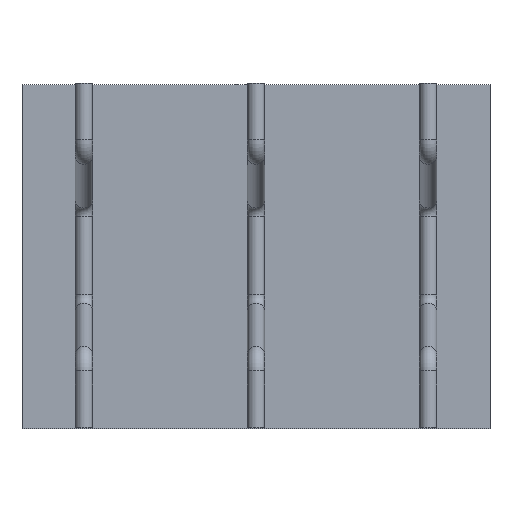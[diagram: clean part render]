
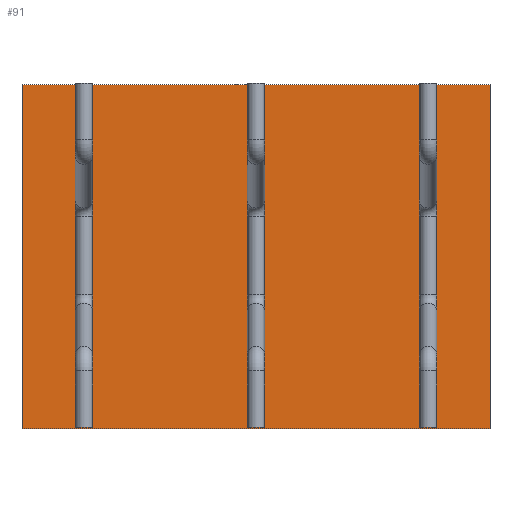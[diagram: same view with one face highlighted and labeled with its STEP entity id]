
A CAD part, top view. The second image highlights one B-rep face of the part: STEP entity #91.
In plain terms, the highlighted planar face has unit normal (0, 0, 1).
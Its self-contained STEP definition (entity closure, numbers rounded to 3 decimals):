
#52=CARTESIAN_POINT('Axis2P3D Location',(0.,0.,0.)) ;
#57=CARTESIAN_POINT('Line Origine',(0.,500.,0.)) ;
#61=CARTESIAN_POINT('Vertex',(680.,500.,0.)) ;
#63=CARTESIAN_POINT('Vertex',(-680.,500.,0.)) ;
#66=CARTESIAN_POINT('Line Origine',(-680.,0.,0.)) ;
#70=CARTESIAN_POINT('Vertex',(-680.,-500.,0.)) ;
#73=CARTESIAN_POINT('Line Origine',(0.,-500.,0.)) ;
#77=CARTESIAN_POINT('Vertex',(680.,-500.,0.)) ;
#80=CARTESIAN_POINT('Line Origine',(680.,0.,0.)) ;
#53=DIRECTION('Axis2P3D Direction',(0.,0.,1.)) ;
#54=DIRECTION('Axis2P3D XDirection',(1.,0.,0.)) ;
#58=DIRECTION('Vector Direction',(1.,0.,0.)) ;
#67=DIRECTION('Vector Direction',(0.,1.,0.)) ;
#74=DIRECTION('Vector Direction',(-1.,0.,0.)) ;
#81=DIRECTION('Vector Direction',(0.,-1.,0.)) ;
#55=AXIS2_PLACEMENT_3D('Plane Axis2P3D',#52,#53,#54) ;
#86=ORIENTED_EDGE('',*,*,#65,.T.) ;
#87=ORIENTED_EDGE('',*,*,#72,.T.) ;
#88=ORIENTED_EDGE('',*,*,#79,.T.) ;
#89=ORIENTED_EDGE('',*,*,#84,.T.) ;
#59=VECTOR('Line Direction',#58,1.) ;
#68=VECTOR('Line Direction',#67,1.) ;
#75=VECTOR('Line Direction',#74,1.) ;
#82=VECTOR('Line Direction',#81,1.) ;
#91=ADVANCED_FACE('Fill.1',(#90),#56,.T.) ;
#65=EDGE_CURVE('',#62,#64,#60,.F.) ;
#72=EDGE_CURVE('',#64,#71,#69,.F.) ;
#79=EDGE_CURVE('',#71,#78,#76,.F.) ;
#84=EDGE_CURVE('',#78,#62,#83,.F.) ;
#85=EDGE_LOOP('',(#86,#87,#88,#89)) ;
#90=FACE_OUTER_BOUND('',#85,.T.) ;
#60=LINE('Line',#57,#59) ;
#69=LINE('Line',#66,#68) ;
#76=LINE('Line',#73,#75) ;
#83=LINE('Line',#80,#82) ;
#56=PLANE('',#55) ;
#62=VERTEX_POINT('',#61) ;
#64=VERTEX_POINT('',#63) ;
#71=VERTEX_POINT('',#70) ;
#78=VERTEX_POINT('',#77) ;
